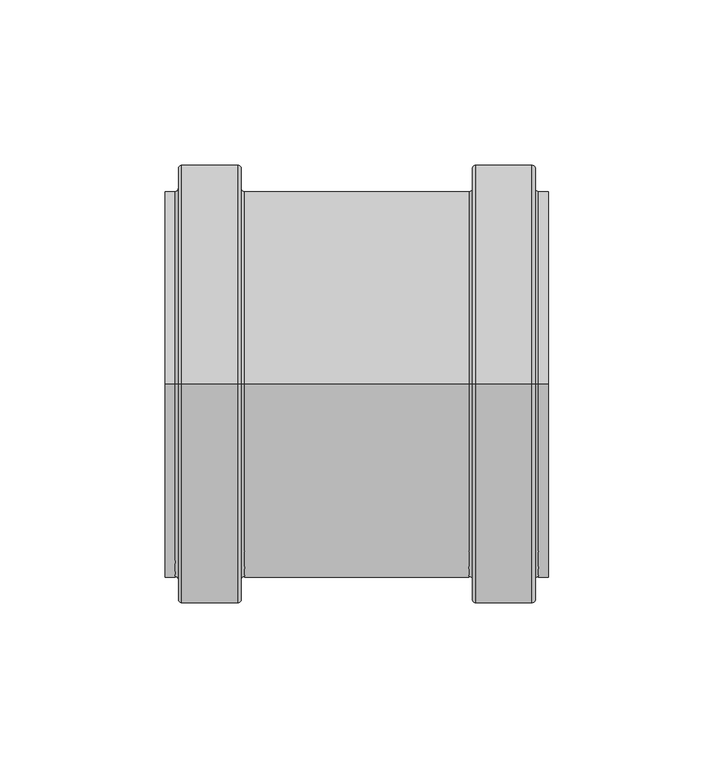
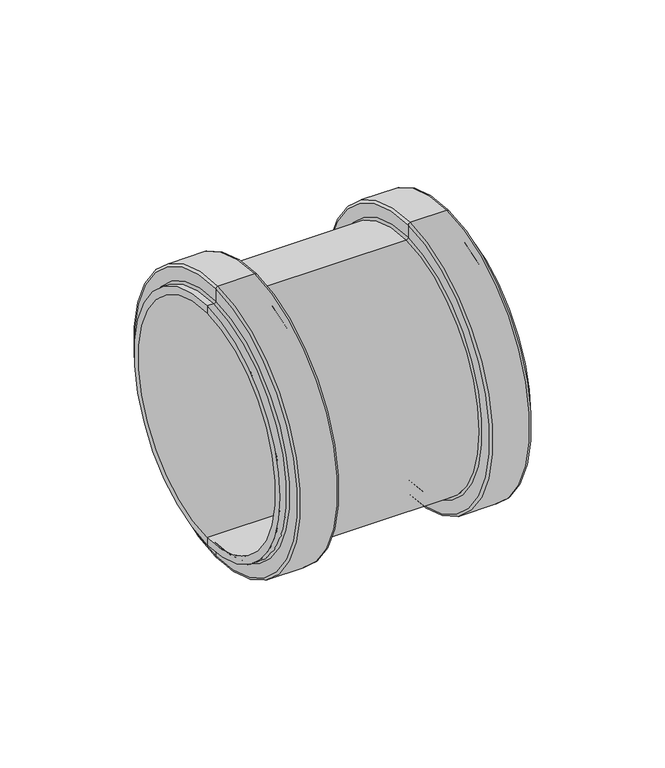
"""IFC4 building model written with IfcOpenShell, lengths in millimetres: pipe fitting geometry, MarleyPlumbingAndDrainage_PipeFitting_dBlueSlipCoupling_VMP : VMP-110-000-00D - 110mm - Blue."""

from ifc_helpers import new_model, si_unit, point, frame, origin, place, context, project, spatial, polyline, circle_curve, ellipse_curve, trimmed, source, transform, mapped, element, save
from ifc_brep_helpers import plane_surface, cylinder_surface, revolved_surface, advanced_brep


def pipe_fitting_92370083(model_context):
    return source(origin(), model_context, "Body", "AdvancedBrep", [
        advanced_brep(
        [(-48.8253818, 0.0, -58.5), (-48.8253818, 0.0, 58.5), (19.1746182, 0.0, 58.5), (19.1746182, 0.0, -58.5), (43.1746182, 0.0, -55.0), (43.1746182, 0.0, 55.0), (-72.8253818, 0.0, 55.0), (-72.8253818, 0.0, -55.0), (43.1746182, 0.0, -58.5), (43.1746182, 0.0, 58.5), (40.1746182, 0.0, -58.5), (40.1746182, 0.0, 58.5), (39.1746182, 0.0, -59.5), (39.1746182, 0.0, 59.5), (39.1746182, 0.0, -65.5), (39.1746182, 0.0, 65.5), (38.1746182, 0.0, -66.5), (38.1746182, 0.0, 66.5), (21.1746182, 0.0, -66.5), (21.1746182, 0.0, 66.5), (20.1746182, 0.0, -65.5), (20.1746182, 0.0, 65.5), (20.1746182, 0.0, -59.5), (20.1746182, 0.0, 59.5), (-49.8253818, 0.0, -59.5), (-49.8253818, 0.0, 59.5), (-49.8253818, 0.0, -65.5), (-49.8253818, 0.0, 65.5), (-50.8253818, 0.0, -66.5), (-50.8253818, 0.0, 66.5), (-67.8253818, 0.0, -66.5), (-67.8253818, 0.0, 66.5), (-68.8253818, 0.0, -65.5), (-68.8253818, 0.0, 65.5), (-68.8253818, 0.0, -59.5), (-68.8253818, 0.0, 59.5), (-69.8253818, 0.0, -58.5), (-69.8253818, 0.0, 58.5), (-72.8253818, 0.0, -58.5), (-72.8253818, 0.0, 58.5)],
        [
            (0, 1, circle_curve(frame((-48.8253818, 0.0, 0.0), z_axis=(1.0, 0.0, 0.0), x_axis=(0.0, 0.0, 1.0)), 58.5)),
            (1, 2),
            (2, 3, circle_curve(frame((19.1746182, 0.0, 0.0), z_axis=(-1.0, 0.0, 0.0), x_axis=(0.0, 0.0, 1.0)), 58.5)),
            (3, 0),
            (1, 0, circle_curve(frame((-48.8253818, 0.0, 0.0), z_axis=(1.0, 0.0, 0.0), x_axis=(0.0, 0.0, 1.0)), 58.5)),
            (3, 2, circle_curve(frame((19.1746182, 0.0, 0.0), z_axis=(-1.0, 0.0, 0.0), x_axis=(0.0, 0.0, 1.0)), 58.5)),
            (4, 5, circle_curve(frame((43.1746182, 0.0, 0.0), z_axis=(1.0, 0.0, 0.0), x_axis=(0.0, 0.0, 1.0)), 55.0)),
            (5, 6),
            (6, 7, circle_curve(frame((-72.8253818, 0.0, 0.0), z_axis=(-1.0, 0.0, 0.0), x_axis=(0.0, 0.0, 1.0)), 55.0)),
            (7, 4),
            (5, 4, circle_curve(frame((43.1746182, 0.0, 0.0), z_axis=(1.0, 0.0, 0.0), x_axis=(0.0, 0.0, 1.0)), 55.0)),
            (7, 6, circle_curve(frame((-72.8253818, 0.0, 0.0), z_axis=(-1.0, 0.0, 0.0), x_axis=(0.0, 0.0, 1.0)), 55.0)),
            (8, 9, circle_curve(frame((43.1746182, 0.0, 0.0), z_axis=(1.0, 0.0, 0.0), x_axis=(0.0, 0.0, 1.0)), 58.5)),
            (9, 5),
            (4, 8),
            (9, 8, circle_curve(frame((43.1746182, 0.0, 0.0), z_axis=(1.0, 0.0, 0.0), x_axis=(0.0, 0.0, 1.0)), 58.5)),
            (10, 11, circle_curve(frame((40.1746182, 0.0, 0.0), z_axis=(1.0, 0.0, 0.0), x_axis=(0.0, 0.0, 1.0)), 58.5)),
            (11, 9),
            (8, 10),
            (11, 10, circle_curve(frame((40.1746182, 0.0, 0.0), z_axis=(1.0, 0.0, 0.0), x_axis=(0.0, 0.0, 1.0)), 58.5)),
            (12, 13, circle_curve(frame((39.1746182, 0.0, 0.0), z_axis=(1.0, 0.0, 0.0), x_axis=(0.0, 0.0, 1.0)), 59.5)),
            (13, 11, circle_curve(frame((40.1746182, 0.0, 59.5), z_axis=(0.0, -1.0, 0.0), x_axis=(1.0, 0.0, 0.0)), 1.0)),
            (10, 12, circle_curve(frame((40.1746182, 0.0, -59.5), z_axis=(0.0, -1.0, 0.0), x_axis=(1.0, 0.0, 0.0)), 1.0)),
            (13, 12, circle_curve(frame((39.1746182, 0.0, 0.0), z_axis=(1.0, 0.0, 0.0), x_axis=(0.0, 0.0, 1.0)), 59.5)),
            (14, 15, circle_curve(frame((39.1746182, 0.0, 0.0), z_axis=(1.0, 0.0, 0.0), x_axis=(0.0, 0.0, 1.0)), 65.5)),
            (15, 13),
            (12, 14),
            (15, 14, circle_curve(frame((39.1746182, 0.0, 0.0), z_axis=(1.0, 0.0, 0.0), x_axis=(0.0, 0.0, 1.0)), 65.5)),
            (16, 17, circle_curve(frame((38.1746182, 0.0, 0.0), z_axis=(1.0, 0.0, 0.0), x_axis=(0.0, 0.0, 1.0)), 66.5)),
            (17, 15, circle_curve(frame((38.1746182, 0.0, 65.5), z_axis=(0.0, 1.0, 0.0), x_axis=(1.0, 0.0, 0.0)), 1.0)),
            (14, 16, circle_curve(frame((38.1746182, 0.0, -65.5), z_axis=(0.0, 1.0, 0.0), x_axis=(1.0, 0.0, 0.0)), 1.0)),
            (17, 16, circle_curve(frame((38.1746182, 0.0, 0.0), z_axis=(1.0, 0.0, 0.0), x_axis=(0.0, 0.0, 1.0)), 66.5)),
            (18, 19, circle_curve(frame((21.1746182, 0.0, 0.0), z_axis=(1.0, 0.0, 0.0), x_axis=(0.0, 0.0, 1.0)), 66.5)),
            (19, 17),
            (16, 18),
            (19, 18, circle_curve(frame((21.1746182, 0.0, 0.0), z_axis=(1.0, 0.0, 0.0), x_axis=(0.0, 0.0, 1.0)), 66.5)),
            (20, 21, circle_curve(frame((20.1746182, 0.0, 0.0), z_axis=(1.0, 0.0, 0.0), x_axis=(0.0, 0.0, 1.0)), 65.5)),
            (21, 19, circle_curve(frame((21.1746182, 0.0, 65.5), z_axis=(0.0, 1.0, 0.0), x_axis=(1.0, 0.0, 0.0)), 1.0)),
            (18, 20, circle_curve(frame((21.1746182, 0.0, -65.5), z_axis=(0.0, 1.0, 0.0), x_axis=(1.0, 0.0, 0.0)), 1.0)),
            (21, 20, circle_curve(frame((20.1746182, 0.0, 0.0), z_axis=(1.0, 0.0, 0.0), x_axis=(0.0, 0.0, 1.0)), 65.5)),
            (22, 23, circle_curve(frame((20.1746182, 0.0, 0.0), z_axis=(1.0, 0.0, 0.0), x_axis=(0.0, 0.0, 1.0)), 59.5)),
            (23, 21),
            (20, 22),
            (23, 22, circle_curve(frame((20.1746182, 0.0, 0.0), z_axis=(1.0, 0.0, 0.0), x_axis=(0.0, 0.0, 1.0)), 59.5)),
            (2, 23, circle_curve(frame((19.1746182, 0.0, 59.5), z_axis=(0.0, -1.0, 0.0), x_axis=(1.0, 0.0, 0.0)), 1.0)),
            (22, 3, circle_curve(frame((19.1746182, 0.0, -59.5), z_axis=(0.0, -1.0, 0.0), x_axis=(1.0, 0.0, 0.0)), 1.0)),
            (24, 25, circle_curve(frame((-49.8253818, 0.0, 0.0), z_axis=(1.0, 0.0, 0.0), x_axis=(0.0, 0.0, 1.0)), 59.5)),
            (25, 1, circle_curve(frame((-48.8253818, 0.0, 59.5), z_axis=(0.0, -1.0, 0.0), x_axis=(1.0, 0.0, 0.0)), 1.0)),
            (0, 24, circle_curve(frame((-48.8253818, 0.0, -59.5), z_axis=(0.0, -1.0, 0.0), x_axis=(1.0, 0.0, 0.0)), 1.0)),
            (25, 24, circle_curve(frame((-49.8253818, 0.0, 0.0), z_axis=(1.0, 0.0, 0.0), x_axis=(0.0, 0.0, 1.0)), 59.5)),
            (26, 27, circle_curve(frame((-49.8253818, 0.0, 0.0), z_axis=(1.0, 0.0, 0.0), x_axis=(0.0, 0.0, 1.0)), 65.5)),
            (27, 25),
            (24, 26),
            (27, 26, circle_curve(frame((-49.8253818, 0.0, 0.0), z_axis=(1.0, 0.0, 0.0), x_axis=(0.0, 0.0, 1.0)), 65.5)),
            (28, 29, circle_curve(frame((-50.8253818, 0.0, 0.0), z_axis=(1.0, 0.0, 0.0), x_axis=(0.0, 0.0, 1.0)), 66.5)),
            (29, 27, circle_curve(frame((-50.8253818, 0.0, 65.5), z_axis=(0.0, 1.0, 0.0), x_axis=(1.0, 0.0, 0.0)), 1.0)),
            (26, 28, circle_curve(frame((-50.8253818, 0.0, -65.5), z_axis=(0.0, 1.0, 0.0), x_axis=(1.0, 0.0, 0.0)), 1.0)),
            (29, 28, circle_curve(frame((-50.8253818, 0.0, 0.0), z_axis=(1.0, 0.0, 0.0), x_axis=(0.0, 0.0, 1.0)), 66.5)),
            (30, 31, circle_curve(frame((-67.8253818, 0.0, 0.0), z_axis=(1.0, 0.0, 0.0), x_axis=(0.0, 0.0, 1.0)), 66.5)),
            (31, 29),
            (28, 30),
            (31, 30, circle_curve(frame((-67.8253818, 0.0, 0.0), z_axis=(1.0, 0.0, 0.0), x_axis=(0.0, 0.0, 1.0)), 66.5)),
            (32, 33, circle_curve(frame((-68.8253818, 0.0, 0.0), z_axis=(1.0, 0.0, 0.0), x_axis=(0.0, 0.0, 1.0)), 65.5)),
            (33, 31, circle_curve(frame((-67.8253818, 0.0, 65.5), z_axis=(0.0, 1.0, 0.0), x_axis=(1.0, 0.0, 0.0)), 1.0)),
            (30, 32, circle_curve(frame((-67.8253818, 0.0, -65.5), z_axis=(0.0, 1.0, 0.0), x_axis=(1.0, 0.0, 0.0)), 1.0)),
            (33, 32, circle_curve(frame((-68.8253818, 0.0, 0.0), z_axis=(1.0, 0.0, 0.0), x_axis=(0.0, 0.0, 1.0)), 65.5)),
            (34, 35, circle_curve(frame((-68.8253818, 0.0, 0.0), z_axis=(1.0, 0.0, 0.0), x_axis=(0.0, 0.0, 1.0)), 59.5)),
            (35, 33),
            (32, 34),
            (35, 34, circle_curve(frame((-68.8253818, 0.0, 0.0), z_axis=(1.0, 0.0, 0.0), x_axis=(0.0, 0.0, 1.0)), 59.5)),
            (36, 37, circle_curve(frame((-69.8253818, 0.0, 0.0), z_axis=(1.0, 0.0, 0.0), x_axis=(0.0, 0.0, 1.0)), 58.5)),
            (37, 35, circle_curve(frame((-69.8253818, 0.0, 59.5), z_axis=(0.0, -1.0, 0.0), x_axis=(1.0, 0.0, 0.0)), 1.0)),
            (34, 36, circle_curve(frame((-69.8253818, 0.0, -59.5), z_axis=(0.0, -1.0, 0.0), x_axis=(1.0, 0.0, 0.0)), 1.0)),
            (37, 36, circle_curve(frame((-69.8253818, 0.0, 0.0), z_axis=(1.0, 0.0, 0.0), x_axis=(0.0, 0.0, 1.0)), 58.5)),
            (38, 39, circle_curve(frame((-72.8253818, 0.0, 0.0), z_axis=(1.0, 0.0, 0.0), x_axis=(0.0, 0.0, 1.0)), 58.5)),
            (39, 37),
            (36, 38),
            (39, 38, circle_curve(frame((-72.8253818, 0.0, 0.0), z_axis=(1.0, 0.0, 0.0), x_axis=(0.0, 0.0, 1.0)), 58.5)),
            (6, 39),
            (38, 7),
        ],
        [
            cylinder_surface(frame((-1210.7325039, 0.0, 0.0), z_axis=(-1.0, 0.0, 0.0), x_axis=(0.0, 0.0, 1.0)), 58.5),
            revolved_surface(polyline([(-72.82538180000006, 0.0, 55.0), (43.17461819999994, 0.0, 55.0)]), (-1210.7325039, 0.0, 0.0), (-1.0, 0.0, 0.0)),
            plane_surface(frame((43.1746182, 0.0, 0.0), z_axis=(1.0, 0.0, 0.0), x_axis=(0.0, 0.0, 1.0))),
            revolved_surface(trimmed(ellipse_curve(frame((40.1746182, 0.0, 59.5), z_axis=(0.0, 1.0, 0.0), x_axis=(1.0, 0.0, 0.0)), 1.0, 1.0), [point((40.1746182, 0.0, 58.5))], [point((39.1746182, 0.0, 59.5))], True, "CARTESIAN"), (-1210.7325039, 0.0, 0.0), (-1.0, 0.0, 0.0)),
            plane_surface(frame((39.1746182, 0.0, 0.0), z_axis=(1.0, 0.0, 0.0), x_axis=(0.0, 0.0, 1.0))),
            revolved_surface(trimmed(ellipse_curve(frame((38.1746182, 0.0, 65.5), z_axis=(0.0, -1.0, 0.0), x_axis=(1.0, 0.0, 0.0)), 1.0, 1.0), [point((39.1746182, 0.0, 65.5))], [point((38.1746182, 0.0, 66.5))], True, "CARTESIAN"), (-1210.7325039, 0.0, 0.0), (-1.0, 0.0, 0.0)),
            cylinder_surface(frame((-1210.7325039, 0.0, 0.0), z_axis=(-1.0, 0.0, 0.0), x_axis=(0.0, 0.0, 1.0)), 66.5),
            revolved_surface(trimmed(ellipse_curve(frame((21.1746182, 0.0, 65.5), z_axis=(0.0, -1.0, 0.0), x_axis=(1.0, 0.0, 0.0)), 1.0, 1.0), [point((21.1746182, 0.0, 66.5))], [point((20.1746182, 0.0, 65.5))], True, "CARTESIAN"), (-1210.7325039, 0.0, 0.0), (-1.0, 0.0, 0.0)),
            plane_surface(frame((20.1746182, 0.0, 0.0), z_axis=(-1.0, 0.0, 0.0), x_axis=(0.0, 0.0, 1.0))),
            revolved_surface(trimmed(ellipse_curve(frame((19.1746182, 0.0, 59.5), z_axis=(0.0, 1.0, 0.0), x_axis=(1.0, 0.0, 0.0)), 1.0, 1.0), [point((20.1746182, 0.0, 59.5))], [point((19.1746182, 0.0, 58.5))], True, "CARTESIAN"), (-1210.7325039, 0.0, 0.0), (-1.0, 0.0, 0.0)),
            revolved_surface(trimmed(ellipse_curve(frame((-48.8253818, 0.0, 59.5), z_axis=(0.0, 1.0, 0.0), x_axis=(1.0, 0.0, 0.0)), 1.0, 1.0), [point((-48.8253818, 0.0, 58.5))], [point((-49.8253818, 0.0, 59.5))], True, "CARTESIAN"), (-1210.7325039, 0.0, 0.0), (-1.0, 0.0, 0.0)),
            plane_surface(frame((-49.8253818, 0.0, 0.0), z_axis=(1.0, 0.0, 0.0), x_axis=(0.0, 0.0, 1.0))),
            revolved_surface(trimmed(ellipse_curve(frame((-50.8253818, 0.0, 65.5), z_axis=(0.0, -1.0, 0.0), x_axis=(1.0, 0.0, 0.0)), 1.0, 1.0), [point((-49.8253818, 0.0, 65.5))], [point((-50.8253818, 0.0, 66.5))], True, "CARTESIAN"), (-1210.7325039, 0.0, 0.0), (-1.0, 0.0, 0.0)),
            revolved_surface(trimmed(ellipse_curve(frame((-67.8253818, 0.0, 65.5), z_axis=(0.0, -1.0, 0.0), x_axis=(1.0, 0.0, 0.0)), 1.0, 1.0), [point((-67.8253818, 0.0, 66.5))], [point((-68.8253818, 0.0, 65.5))], True, "CARTESIAN"), (-1210.7325039, 0.0, 0.0), (-1.0, 0.0, 0.0)),
            plane_surface(frame((-68.8253818, 0.0, 0.0), z_axis=(-1.0, 0.0, 0.0), x_axis=(0.0, 0.0, 1.0))),
            revolved_surface(trimmed(ellipse_curve(frame((-69.8253818, 0.0, 59.5), z_axis=(0.0, 1.0, 0.0), x_axis=(1.0, 0.0, 0.0)), 1.0, 1.0), [point((-68.8253818, 0.0, 59.5))], [point((-69.8253818, 0.0, 58.5))], True, "CARTESIAN"), (-1210.7325039, 0.0, 0.0), (-1.0, 0.0, 0.0)),
            plane_surface(frame((-72.8253818, 0.0, 0.0), z_axis=(-1.0, 0.0, 0.0), x_axis=(0.0, 0.0, 1.0))),
        ],
        [
            (0, [[1, 2, 3, 4]]),
            (0, [[5, -4, 6, -2]]),
            (1, [[7, 8, 9, 10]]),
            (1, [[11, -10, 12, -8]]),
            (2, [[13, 14, -7, 15]]),
            (2, [[16, -15, -11, -14]]),
            (0, [[17, 18, -13, 19]]),
            (0, [[20, -19, -16, -18]]),
            (3, [[21, 22, -17, 23]]),
            (3, [[24, -23, -20, -22]]),
            (4, [[25, 26, -21, 27]]),
            (4, [[28, -27, -24, -26]]),
            (5, [[29, 30, -25, 31]]),
            (5, [[32, -31, -28, -30]]),
            (6, [[33, 34, -29, 35]]),
            (6, [[36, -35, -32, -34]]),
            (7, [[37, 38, -33, 39]]),
            (7, [[40, -39, -36, -38]]),
            (8, [[41, 42, -37, 43]]),
            (8, [[44, -43, -40, -42]]),
            (9, [[-3, 45, -41, 46]]),
            (9, [[-6, -46, -44, -45]]),
            (10, [[47, 48, -1, 49]]),
            (10, [[50, -49, -5, -48]]),
            (11, [[51, 52, -47, 53]]),
            (11, [[54, -53, -50, -52]]),
            (12, [[55, 56, -51, 57]]),
            (12, [[58, -57, -54, -56]]),
            (6, [[59, 60, -55, 61]]),
            (6, [[62, -61, -58, -60]]),
            (13, [[63, 64, -59, 65]]),
            (13, [[66, -65, -62, -64]]),
            (14, [[67, 68, -63, 69]]),
            (14, [[70, -69, -66, -68]]),
            (15, [[71, 72, -67, 73]]),
            (15, [[74, -73, -70, -72]]),
            (0, [[75, 76, -71, 77]]),
            (0, [[78, -77, -74, -76]]),
            (16, [[-9, 79, -75, 80]]),
            (16, [[-12, -80, -78, -79]]),
        ],
    ),
    ])


if __name__ == "__main__":
    model = new_model("IFC4")
    model_context = context("Model", 3, world=origin())
    ifc_project = project(units=[si_unit("LENGTHUNIT", "METRE", prefix="MILLI")], contexts=[model_context])
    site = spatial("IfcSite", under=ifc_project)
    building = spatial("IfcBuilding", under=site)
    placement = place(None, origin())
    pipe_fitting_shape = pipe_fitting_92370083(model_context)
    element("IfcPipeFitting", 1, ObjectType="MarleyPlumbingAndDrainage_PipeFitting_dBlueSlipCoupling_VMP : VMP-110-000-00D - 110mm - Blue", at=placement, inside=building, context=model_context, shape_type="MappedRepresentation", body=[
        mapped(pipe_fitting_shape, transform((0.0, 0.0, 0.0), x_axis=(1.0, 0.0, 0.0), y_axis=(0.0, 1.0, 0.0), z_axis=(0.0, 0.0, 1.0))),
    ])
    save(model, "model.ifc")
